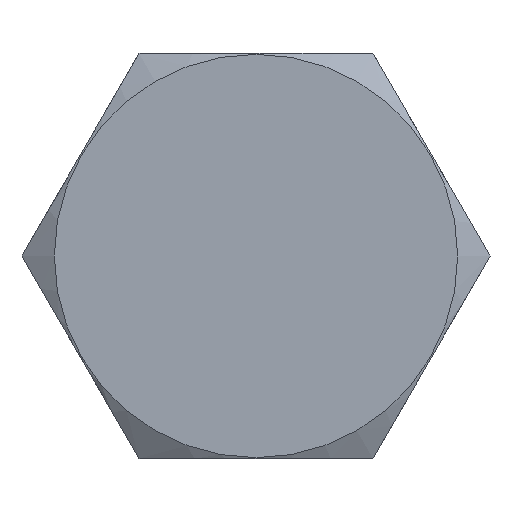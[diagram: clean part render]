
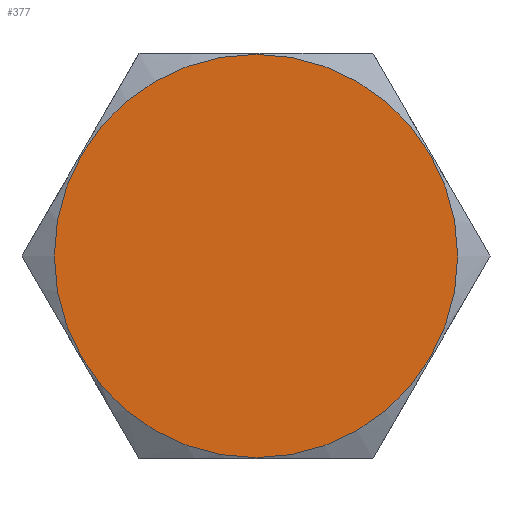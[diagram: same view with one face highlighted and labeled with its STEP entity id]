
A CAD part, front view. The second image highlights one B-rep face of the part: STEP entity #377.
In plain terms, the highlighted planar face has unit normal (0, -1, 0).
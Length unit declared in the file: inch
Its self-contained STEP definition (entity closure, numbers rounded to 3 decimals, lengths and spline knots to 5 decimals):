
#26=PLANE('',#432);
#69=FACE_OUTER_BOUND('',#91,.T.);
#91=EDGE_LOOP('',(#342));
#149=CIRCLE('',#431,0.4975);
#185=VERTEX_POINT('',#719);
#239=EDGE_CURVE('',#185,#185,#149,.T.);
#342=ORIENTED_EDGE('',*,*,#239,.F.);
#377=ADVANCED_FACE('',(#69),#26,.T.);
#431=AXIS2_PLACEMENT_3D('',#720,#528,#529);
#432=AXIS2_PLACEMENT_3D('',#722,#531,#532);
#528=DIRECTION('center_axis',(0.,1.,0.));
#529=DIRECTION('ref_axis',(0.,0.,1.));
#531=DIRECTION('center_axis',(0.,-1.,0.));
#532=DIRECTION('ref_axis',(0.,0.,-1.));
#719=CARTESIAN_POINT('',(0.,0.,-0.4975));
#720=CARTESIAN_POINT('Origin',(0.,0.,0.));
#722=CARTESIAN_POINT('Origin',(0.,0.,0.));
